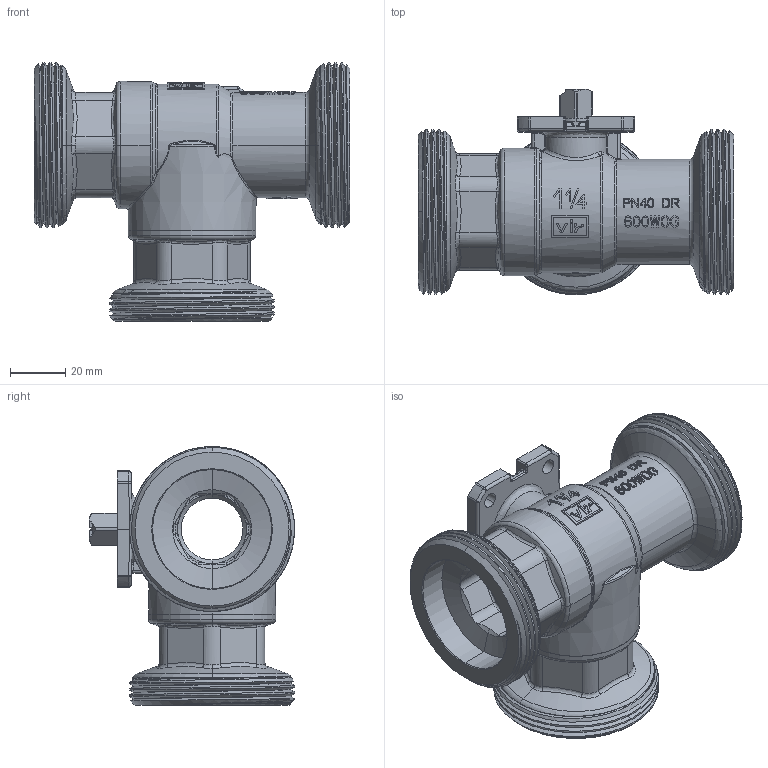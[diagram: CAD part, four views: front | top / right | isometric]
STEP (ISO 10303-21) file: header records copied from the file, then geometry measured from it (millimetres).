
FILE_DESCRIPTION((''),'2;1');
FILE_NAME('H988FT032_2346_SW0001','2015-05-11T',('64ciro'),('Vir spa'),'PRO/ENGINEER BY PARAMETRIC TECHNOLOGY CORPORATION, 2010280','PRO/ENGINEER BY PARAMETRIC TECHNOLOGY CORPORATION, 2010280','');
FILE_SCHEMA(('CONFIG_CONTROL_DESIGN'));
Products named in the file (1): H988FT032_2346_SW0001
Bounding box: 114 x 74.1 x 93.5 mm (x, y, z)
Volume: 156136 mm3; surface area: 66449.9 mm2
Topology: 1 solids, 3 shells, 1145 faces, 2930 edges, 1842 vertices
Faces by surface type: plane 486, cylinder 262, bspline 163, cone 84, torus 77, extrusion 63, sphere 10
Entity records: 49693 total; most frequent: CARTESIAN_POINT 24050, ORIENTED_EDGE 5860, DIRECTION 4554, EDGE_CURVE 2930, VERTEX_POINT 1842, AXIS2_PLACEMENT_3D 1721, EDGE_LOOP 1218, FACE_OUTER_BOUND 1145
